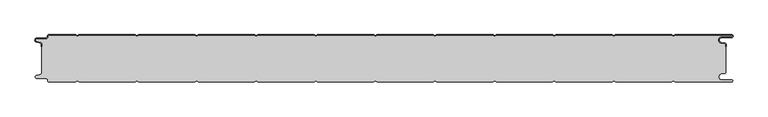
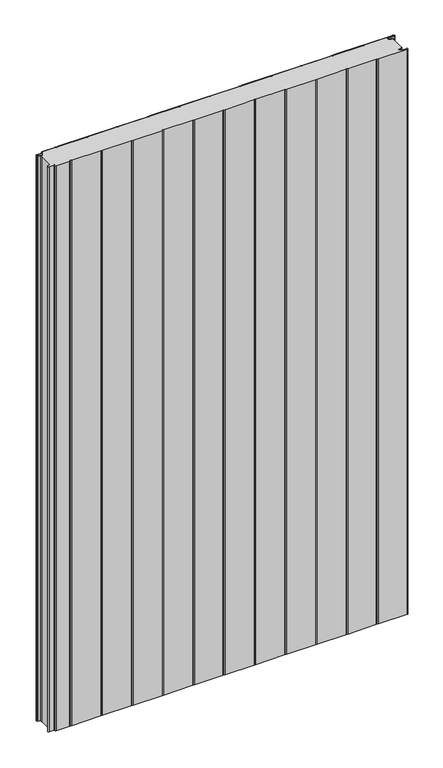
"""IFC4 building model written with IfcOpenShell, lengths in millimetres: plate geometry, PM1_Curtain-Panel_Perfil-Frigorífico : ACH_PM1_Panel-Acústico-Sectorización_80M."""

from ifc_helpers import new_model, si_unit, point, frame, frame_2d, origin, origin_with_axes, place, context, project, spatial, polyline, circle_curve, trimmed, segment, composite_curve, outline, extrude, source, transform, mapped, element, save
from ifc_brep_helpers import plane_surface, cylinder_surface, revolved_surface, advanced_brep


def plate_82cb0394(model_context):
    return source(origin(), model_context, "Body", "SolidModel", [
        advanced_brep(
        [(-575.0, -15.878557, 1945.7507136), (-575.0, -20.0, 1945.7507136), (-574.2, -20.0, 1945.7507136), (-574.2, -15.878557, 1945.7507136), (-576.370137, -13.1503208, 1945.7507136), (-582.529863, -11.728236, 1945.7507136), (-581.9, -6.2, 1945.7507136), (-566.4, -6.2, 1945.7507136), (-563.6, -3.4, 1945.7507136), (-563.6, -2.0, 1945.7507136), (-562.4, -0.8, 1945.7507136), (-517.3143588, -0.8, 1945.7507136), (-514.4, -2.482606, 1945.7507136), (-511.4856412, -0.8, 1945.7507136), (-417.3143588, -0.8, 1945.7507136), (-414.4, -2.482606, 1945.7507136), (-411.4856412, -0.8, 1945.7507136), (-317.3143588, -0.8, 1945.7507136), (-314.4, -2.482606, 1945.7507136), (-311.4856412, -0.8, 1945.7507136), (-217.3143588, -0.8, 1945.7507136), (-214.4, -2.482606, 1945.7507136), (-211.4856412, -0.8, 1945.7507136), (-117.3143588, -0.8, 1945.7507136), (-114.4, -2.482606, 1945.7507136), (-111.4856412, -0.8, 1945.7507136), (-17.3143588, -0.8, 1945.7507136), (-14.4, -2.482606, 1945.7507136), (-11.4856412, -0.8, 1945.7507136), (82.6856412, -0.8, 1945.7507136), (85.6, -2.482606, 1945.7507136), (88.5143588, -0.8, 1945.7507136), (182.6856412, -0.8, 1945.7507136), (185.6, -2.482606, 1945.7507136), (188.5143588, -0.8, 1945.7507136), (282.6856412, -0.8, 1945.7507136), (285.6, -2.482606, 1945.7507136), (288.5143588, -0.8, 1945.7507136), (382.6856412, -0.8, 1945.7507136), (385.6, -2.482606, 1945.7507136), (388.5143588, -0.8, 1945.7507136), (482.6856412, -0.8, 1945.7507136), (485.6, -2.482606, 1945.7507136), (488.5143588, -0.8, 1945.7507136), (583.1, -0.8, 1945.7507136), (583.1, -4.2, 1945.7507136), (566.1, -4.2, 1945.7507136), (565.2664884, -13.7270771, 1945.7507136), (571.7125669, -14.8636953, 1945.7507136), (573.2, -16.6363492, 1945.7507136), (573.2, -20.0, 1945.7507136), (574.0, -20.0, 1945.7507136), (574.0, -16.6363492, 1945.7507136), (571.8514855, -14.0758491, 1945.7507136), (565.405407, -12.939231, 1945.7507136), (566.1, -5.0, 1945.7507136), (583.1, -5.0, 1945.7507136), (585.6, -2.5, 1945.7507136), (583.1, 0.0, 1945.7507136), (488.2999995, 0.0, 1945.7507136), (485.6, -1.5588455, 1945.7507136), (482.9000005, 0.0, 1945.7507136), (388.2999995, 0.0, 1945.7507136), (385.6, -1.5588455, 1945.7507136), (382.9000005, 0.0, 1945.7507136), (288.2999995, 0.0, 1945.7507136), (285.6, -1.5588455, 1945.7507136), (282.9000005, 0.0, 1945.7507136), (188.2999995, 0.0, 1945.7507136), (185.6, -1.5588455, 1945.7507136), (182.9000005, 0.0, 1945.7507136), (88.2999995, 0.0, 1945.7507136), (85.6, -1.5588455, 1945.7507136), (82.9000005, 0.0, 1945.7507136), (-11.7000005, 0.0, 1945.7507136), (-14.4, -1.5588455, 1945.7507136), (-17.0999995, 0.0, 1945.7507136), (-111.7000005, 0.0, 1945.7507136), (-114.4, -1.5588455, 1945.7507136), (-117.0999995, 0.0, 1945.7507136), (-211.7000005, 0.0, 1945.7507136), (-214.4, -1.5588455, 1945.7507136), (-217.0999995, 0.0, 1945.7507136), (-311.7000005, 0.0, 1945.7507136), (-314.4, -1.5588455, 1945.7507136), (-317.0999995, 0.0, 1945.7507136), (-411.7000005, 0.0, 1945.7507136), (-414.4, -1.5588455, 1945.7507136), (-417.0999995, 0.0, 1945.7507136), (-511.7000005, 0.0, 1945.7507136), (-514.4, -1.5588455, 1945.7507136), (-517.0999995, 0.0, 1945.7507136), (-562.4, 0.0, 1945.7507136), (-564.4, -2.0, 1945.7507136), (-564.4, -3.4, 1945.7507136), (-566.4, -5.4, 1945.7507136), (-581.9, -5.4, 1945.7507136), (-582.7098239, -12.5077322, 1945.7507136), (-576.5500979, -13.929817, 1945.7507136), (-575.0, -15.878557, 0.0), (-576.5500978, -13.9298169, 0.0), (-582.7098239, -12.507732, 0.0), (-581.9, -5.4, 0.0), (-566.4, -5.4, 0.0), (-564.4, -3.4, 0.0), (-564.4, -2.0, 0.0), (-562.4, 0.0, 0.0), (-517.0999995, 0.0, 0.0), (-514.4, -1.5588455, 0.0), (-511.7000005, 0.0, 0.0), (-417.0999995, 0.0, 0.0), (-414.4, -1.5588455, 0.0), (-411.7000005, 0.0, 0.0), (-317.0999995, 0.0, 0.0), (-314.4, -1.5588455, 0.0), (-311.7000005, 0.0, 0.0), (-217.0999995, 0.0, 0.0), (-214.4, -1.5588455, 0.0), (-211.7000005, 0.0, 0.0), (-117.0999995, 0.0, 0.0), (-114.4, -1.5588455, 0.0), (-111.7000005, 0.0, 0.0), (-17.0999995, 0.0, 0.0), (-14.4, -1.5588455, 0.0), (-11.7000005, 0.0, 0.0), (82.9000005, 0.0, 0.0), (85.6, -1.5588455, 0.0), (88.2999995, 0.0, 0.0), (182.9000005, 0.0, 0.0), (185.6, -1.5588455, 0.0), (188.2999995, 0.0, 0.0), (282.9000005, 0.0, 0.0), (285.6, -1.5588455, 0.0), (288.2999995, 0.0, 0.0), (382.9000005, 0.0, 0.0), (385.6, -1.5588455, 0.0), (388.2999995, 0.0, 0.0), (482.9000005, 0.0, 0.0), (485.6, -1.5588455, 0.0), (488.2999995, 0.0, 0.0), (583.1, 0.0, 0.0), (585.6, -2.5, 0.0), (583.1, -5.0, 0.0), (566.1, -5.0, 0.0), (565.405407, -12.939231, 0.0), (571.8514855, -14.0758491, 0.0), (574.0, -16.6363492, 0.0), (574.0, -20.0, 0.0), (573.2, -20.0, 0.0), (573.2, -16.6363492, 0.0), (571.7125669, -14.8636953, 0.0), (565.2664884, -13.7270772, 0.0), (566.1, -4.2, 0.0), (583.1, -4.2, 0.0), (583.1, -0.8, 0.0), (488.5143588, -0.8, 0.0), (485.6, -2.482606, 0.0), (482.6856412, -0.8, 0.0), (388.5143588, -0.8, 0.0), (385.6, -2.482606, 0.0), (382.6856412, -0.8, 0.0), (288.5143588, -0.8, 0.0), (285.6, -2.482606, 0.0), (282.6856412, -0.8, 0.0), (188.5143588, -0.8, 0.0), (185.6, -2.482606, 0.0), (182.6856412, -0.8, 0.0), (88.5143588, -0.8, 0.0), (85.6, -2.482606, 0.0), (82.6856412, -0.8, 0.0), (-11.4856412, -0.8, 0.0), (-14.4, -2.482606, 0.0), (-17.3143588, -0.8, 0.0), (-111.4856412, -0.8, 0.0), (-114.4, -2.482606, 0.0), (-117.3143588, -0.8, 0.0), (-211.4856412, -0.8, 0.0), (-214.4, -2.482606, 0.0), (-217.3143588, -0.8, 0.0), (-311.4856412, -0.8, 0.0), (-314.4, -2.482606, 0.0), (-317.3143588, -0.8, 0.0), (-411.4856412, -0.8, 0.0), (-414.4, -2.482606, 0.0), (-417.3143588, -0.8, 0.0), (-511.4856412, -0.8, 0.0), (-514.4, -2.482606, 0.0), (-517.3143588, -0.8, 0.0), (-562.4, -0.8, 0.0), (-563.6, -2.0, 0.0), (-563.6, -3.4, 0.0), (-566.4, -6.2, 0.0), (-581.9, -6.2, 0.0), (-582.529863, -11.7282362, 0.0), (-576.370137, -13.150321, 0.0), (-574.2, -15.878557, 0.0), (-574.2, -20.0, 0.0), (-575.0, -20.0, 0.0)],
        [
            (0, 1),
            (1, 2),
            (2, 3),
            (3, 4, circle_curve(frame((-577.0, -15.878557, 1945.7507136), z_axis=(0.0, 0.0, 1.0), x_axis=(1.0, 0.0, 0.0)), 2.8)),
            (4, 5),
            (5, 6, circle_curve(frame((-581.9, -9.0, 1945.7507136), z_axis=(0.0, 0.0, -1.0), x_axis=(1.0, 0.0, 0.0)), 2.8)),
            (6, 7),
            (7, 8, circle_curve(frame((-566.4, -3.4, 1945.7507136), z_axis=(0.0, 0.0, 1.0), x_axis=(1.0, 0.0, 0.0)), 2.8)),
            (8, 9),
            (9, 10, circle_curve(frame((-562.4, -2.0, 1945.7507136), z_axis=(0.0, 0.0, -1.0), x_axis=(1.0, 0.0, 0.0)), 1.2)),
            (10, 11),
            (11, 12),
            (12, 13),
            (13, 14),
            (14, 15),
            (15, 16),
            (16, 17),
            (17, 18),
            (18, 19),
            (19, 20),
            (20, 21),
            (21, 22),
            (22, 23),
            (23, 24),
            (24, 25),
            (25, 26),
            (26, 27),
            (27, 28),
            (28, 29),
            (29, 30),
            (30, 31),
            (31, 32),
            (32, 33),
            (33, 34),
            (34, 35),
            (35, 36),
            (36, 37),
            (37, 38),
            (38, 39),
            (39, 40),
            (40, 41),
            (41, 42),
            (42, 43),
            (43, 44),
            (44, 45, circle_curve(frame((583.1, -2.5, 1945.7507136), z_axis=(0.0, 0.0, -1.0), x_axis=(1.0, 0.0, 0.0)), 1.7)),
            (45, 46),
            (46, 47, circle_curve(frame((566.1, -9.0, 1945.7507136), z_axis=(0.0, 0.0, 1.0), x_axis=(1.0, 0.0, 0.0)), 4.8)),
            (47, 48),
            (48, 49, circle_curve(frame((571.4, -16.6363492, 1945.7507136), z_axis=(0.0, 0.0, -1.0), x_axis=(1.0, 0.0, 0.0)), 1.8)),
            (49, 50),
            (50, 51),
            (51, 52),
            (52, 53, circle_curve(frame((571.4, -16.6363492, 1945.7507136), z_axis=(0.0, 0.0, 1.0), x_axis=(1.0, 0.0, 0.0)), 2.6)),
            (53, 54),
            (54, 55, circle_curve(frame((566.1, -9.0, 1945.7507136), z_axis=(0.0, 0.0, -1.0), x_axis=(1.0, 0.0, 0.0)), 4.0)),
            (55, 56),
            (56, 57, circle_curve(frame((583.1, -2.5, 1945.7507136), z_axis=(0.0, 0.0, 1.0), x_axis=(1.0, 0.0, 0.0)), 2.5)),
            (57, 58, circle_curve(frame((583.1, -2.5, 1945.7507136), z_axis=(0.0, 0.0, 1.0), x_axis=(1.0, 0.0, 0.0)), 2.5)),
            (58, 59),
            (59, 60),
            (60, 61),
            (61, 62),
            (62, 63),
            (63, 64),
            (64, 65),
            (65, 66),
            (66, 67),
            (67, 68),
            (68, 69),
            (69, 70),
            (70, 71),
            (71, 72),
            (72, 73),
            (73, 74),
            (74, 75),
            (75, 76),
            (76, 77),
            (77, 78),
            (78, 79),
            (79, 80),
            (80, 81),
            (81, 82),
            (82, 83),
            (83, 84),
            (84, 85),
            (85, 86),
            (86, 87),
            (87, 88),
            (88, 89),
            (89, 90),
            (90, 91),
            (91, 92),
            (92, 93, circle_curve(frame((-562.4, -2.0, 1945.7507136), z_axis=(0.0, 0.0, 1.0), x_axis=(1.0, 0.0, 0.0)), 2.0)),
            (93, 94),
            (94, 95, circle_curve(frame((-566.4, -3.4, 1945.7507136), z_axis=(0.0, 0.0, -1.0), x_axis=(1.0, 0.0, 0.0)), 2.0)),
            (95, 96),
            (96, 97, circle_curve(frame((-581.9, -9.0, 1945.7507136), z_axis=(0.0, 0.0, 1.0), x_axis=(1.0, 0.0, 0.0)), 3.6)),
            (97, 98),
            (98, 0, circle_curve(frame((-577.0, -15.878557, 1945.7507136), z_axis=(0.0, 0.0, -1.0), x_axis=(1.0, 0.0, 0.0)), 2.0)),
            (99, 100, circle_curve(frame((-577.0, -15.878557, 0.0), z_axis=(0.0, 0.0, 1.0), x_axis=(1.0, 0.0, 0.0)), 2.0)),
            (100, 101),
            (101, 102, circle_curve(frame((-581.9, -9.0, 0.0), z_axis=(0.0, 0.0, -1.0), x_axis=(1.0, 0.0, 0.0)), 3.6)),
            (102, 103),
            (103, 104, circle_curve(frame((-566.4, -3.4, 0.0), z_axis=(0.0, 0.0, 1.0), x_axis=(1.0, 0.0, 0.0)), 2.0)),
            (104, 105),
            (105, 106, circle_curve(frame((-562.4, -2.0, 0.0), z_axis=(0.0, 0.0, -1.0), x_axis=(1.0, 0.0, 0.0)), 2.0)),
            (106, 107),
            (107, 108),
            (108, 109),
            (109, 110),
            (110, 111),
            (111, 112),
            (112, 113),
            (113, 114),
            (114, 115),
            (115, 116),
            (116, 117),
            (117, 118),
            (118, 119),
            (119, 120),
            (120, 121),
            (121, 122),
            (122, 123),
            (123, 124),
            (124, 125),
            (125, 126),
            (126, 127),
            (127, 128),
            (128, 129),
            (129, 130),
            (130, 131),
            (131, 132),
            (132, 133),
            (133, 134),
            (134, 135),
            (135, 136),
            (136, 137),
            (137, 138),
            (138, 139),
            (139, 140),
            (140, 141, circle_curve(frame((583.1, -2.5, 0.0), z_axis=(0.0, 0.0, -1.0), x_axis=(1.0, 0.0, 0.0)), 2.5)),
            (141, 142, circle_curve(frame((583.1, -2.5, 0.0), z_axis=(0.0, 0.0, -1.0), x_axis=(1.0, 0.0, 0.0)), 2.5)),
            (142, 143),
            (143, 144, circle_curve(frame((566.1, -9.0, 0.0), z_axis=(0.0, 0.0, 1.0), x_axis=(1.0, 0.0, 0.0)), 4.0)),
            (144, 145),
            (145, 146, circle_curve(frame((571.4, -16.6363492, 0.0), z_axis=(0.0, 0.0, -1.0), x_axis=(1.0, 0.0, 0.0)), 2.6)),
            (146, 147),
            (147, 148),
            (148, 149),
            (149, 150, circle_curve(frame((571.4, -16.6363492, 0.0), z_axis=(0.0, 0.0, 1.0), x_axis=(1.0, 0.0, 0.0)), 1.8)),
            (150, 151),
            (151, 152, circle_curve(frame((566.1, -9.0, 0.0), z_axis=(0.0, 0.0, -1.0), x_axis=(1.0, 0.0, 0.0)), 4.8)),
            (152, 153),
            (153, 154, circle_curve(frame((583.1, -2.5, 0.0), z_axis=(0.0, 0.0, 1.0), x_axis=(1.0, 0.0, 0.0)), 1.7)),
            (154, 155),
            (155, 156),
            (156, 157),
            (157, 158),
            (158, 159),
            (159, 160),
            (160, 161),
            (161, 162),
            (162, 163),
            (163, 164),
            (164, 165),
            (165, 166),
            (166, 167),
            (167, 168),
            (168, 169),
            (169, 170),
            (170, 171),
            (171, 172),
            (172, 173),
            (173, 174),
            (174, 175),
            (175, 176),
            (176, 177),
            (177, 178),
            (178, 179),
            (179, 180),
            (180, 181),
            (181, 182),
            (182, 183),
            (183, 184),
            (184, 185),
            (185, 186),
            (186, 187),
            (187, 188),
            (188, 189, circle_curve(frame((-562.4, -2.0, 0.0), z_axis=(0.0, 0.0, 1.0), x_axis=(1.0, 0.0, 0.0)), 1.2)),
            (189, 190),
            (190, 191, circle_curve(frame((-566.4, -3.4, 0.0), z_axis=(0.0, 0.0, -1.0), x_axis=(1.0, 0.0, 0.0)), 2.8)),
            (191, 192),
            (192, 193, circle_curve(frame((-581.9, -9.0, 0.0), z_axis=(0.0, 0.0, 1.0), x_axis=(1.0, 0.0, 0.0)), 2.8)),
            (193, 194),
            (194, 195, circle_curve(frame((-577.0, -15.878557, 0.0), z_axis=(0.0, 0.0, -1.0), x_axis=(1.0, 0.0, 0.0)), 2.8)),
            (195, 196),
            (196, 197),
            (197, 99),
            (0, 99),
            (197, 1),
            (196, 2),
            (195, 3),
            (194, 4),
            (193, 5),
            (192, 6),
            (191, 7),
            (190, 8),
            (189, 9),
            (188, 10),
            (187, 11),
            (186, 12),
            (185, 13),
            (184, 14),
            (183, 15),
            (182, 16),
            (181, 17),
            (180, 18),
            (179, 19),
            (178, 20),
            (177, 21),
            (176, 22),
            (175, 23),
            (174, 24),
            (173, 25),
            (172, 26),
            (171, 27),
            (170, 28),
            (169, 29),
            (168, 30),
            (167, 31),
            (166, 32),
            (165, 33),
            (164, 34),
            (163, 35),
            (162, 36),
            (161, 37),
            (160, 38),
            (159, 39),
            (158, 40),
            (157, 41),
            (156, 42),
            (155, 43),
            (154, 44),
            (153, 45),
            (152, 46),
            (151, 47),
            (150, 48),
            (149, 49),
            (148, 50),
            (147, 51),
            (146, 52),
            (145, 53),
            (144, 54),
            (143, 55),
            (142, 56),
            (140, 58),
            (139, 59),
            (138, 60),
            (137, 61),
            (136, 62),
            (135, 63),
            (134, 64),
            (133, 65),
            (132, 66),
            (131, 67),
            (130, 68),
            (129, 69),
            (128, 70),
            (127, 71),
            (126, 72),
            (125, 73),
            (124, 74),
            (123, 75),
            (122, 76),
            (121, 77),
            (120, 78),
            (119, 79),
            (118, 80),
            (117, 81),
            (116, 82),
            (115, 83),
            (114, 84),
            (113, 85),
            (112, 86),
            (111, 87),
            (110, 88),
            (109, 89),
            (108, 90),
            (107, 91),
            (106, 92),
            (105, 93),
            (104, 94),
            (103, 95),
            (102, 96),
            (101, 97),
            (100, 98),
        ],
        [
            plane_surface(frame((-575.0, 0.0, 1945.7507136), z_axis=(0.0, 0.0, 1.0), x_axis=(0.0, 1.0, 0.0))),
            plane_surface(frame((-575.0, 0.0, 0.0), z_axis=(0.0, 0.0, -1.0), x_axis=(0.0, 1.0, 0.0))),
            plane_surface(frame((-575.0, -15.878557, 1945.7507136), z_axis=(-1.0, 0.0, 0.0), x_axis=(0.0, 0.0, -1.0))),
            plane_surface(frame((-575.0, -20.0, 1945.7507136), z_axis=(0.0, -1.0, 0.0), x_axis=(0.0, 0.0, -1.0))),
            plane_surface(frame((-574.2, -20.0, 1945.7507136), z_axis=(1.0, 0.0, 0.0), x_axis=(0.0, 0.0, -1.0))),
            cylinder_surface(frame((-577.0, -15.878557, 1945.7507136), z_axis=(0.0, 0.0, 1.0), x_axis=(1.0, 0.0, 0.0)), 2.8),
            plane_surface(frame((-576.370137, -13.150321, 1945.7507136), z_axis=(0.22495108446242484, 0.9743700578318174, 0.0), x_axis=(0.0, 0.0, -1.0))),
            revolved_surface(polyline([(-579.1, -9.0, 0.0), (-579.1, -9.0, 1945.7507136)]), (-581.9, -9.0, 1945.7507136), (0.0, 0.0, -1.0)),
            plane_surface(frame((-581.9, -6.2, 1945.7507136), z_axis=(0.0, -1.0, 0.0), x_axis=(0.0, 0.0, -1.0))),
            cylinder_surface(frame((-566.4, -3.4, 1945.7507136), z_axis=(0.0, 0.0, 1.0), x_axis=(1.0, 0.0, 0.0)), 2.8),
            plane_surface(frame((-563.6, -3.4, 1945.7507136), z_axis=(1.0, 0.0, 0.0), x_axis=(0.0, 0.0, -1.0))),
            revolved_surface(polyline([(-561.1999999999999, -2.0, 0.0), (-561.1999999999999, -2.0, 1945.7507136)]), (-562.4, -2.0, 1945.7507136), (0.0, 0.0, -1.0)),
            plane_surface(frame((-562.4, -0.8, 1945.7507136), z_axis=(0.0, -1.0, 0.0), x_axis=(0.0, 0.0, -1.0))),
            plane_surface(frame((-517.3143588, -0.8, 1945.7507136), z_axis=(-0.5000000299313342, -0.8660253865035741, 0.0), x_axis=(0.0, 0.0, -1.0))),
            plane_surface(frame((-514.4, -2.482606, 1945.7507136), z_axis=(0.5000000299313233, -0.8660253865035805, 0.0), x_axis=(0.0, 0.0, -1.0))),
            plane_surface(frame((-511.4856412, -0.8, 1945.7507136), z_axis=(0.0, -1.0, 0.0), x_axis=(0.0, 0.0, -1.0))),
            plane_surface(frame((-417.3143588, -0.8, 1945.7507136), z_axis=(-0.5000000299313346, -0.8660253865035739, 0.0), x_axis=(0.0, 0.0, -1.0))),
            plane_surface(frame((-414.4, -2.482606, 1945.7507136), z_axis=(0.5000000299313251, -0.8660253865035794, 0.0), x_axis=(0.0, 0.0, -1.0))),
            plane_surface(frame((-411.4856412, -0.8, 1945.7507136), z_axis=(0.0, -1.0, 0.0), x_axis=(0.0, 0.0, -1.0))),
            plane_surface(frame((-317.3143588, -0.8, 1945.7507136), z_axis=(-0.5000000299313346, -0.866025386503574, 0.0), x_axis=(0.0, 0.0, -1.0))),
            plane_surface(frame((-314.4, -2.482606, 1945.7507136), z_axis=(0.5000000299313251, -0.8660253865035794, 0.0), x_axis=(0.0, 0.0, -1.0))),
            plane_surface(frame((-311.4856412, -0.8, 1945.7507136), z_axis=(0.0, -1.0, 0.0), x_axis=(0.0, 0.0, -1.0))),
            plane_surface(frame((-217.3143588, -0.8, 1945.7507136), z_axis=(-0.5000000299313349, -0.8660253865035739, 0.0), x_axis=(0.0, 0.0, -1.0))),
            plane_surface(frame((-214.4, -2.482606, 1945.7507136), z_axis=(0.5000000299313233, -0.8660253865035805, 0.0), x_axis=(0.0, 0.0, -1.0))),
            plane_surface(frame((-211.4856412, -0.8, 1945.7507136), z_axis=(0.0, -1.0, 0.0), x_axis=(0.0, 0.0, -1.0))),
            plane_surface(frame((-117.3143588, -0.8, 1945.7507136), z_axis=(-0.5000000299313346, -0.866025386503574, 0.0), x_axis=(0.0, 0.0, -1.0))),
            plane_surface(frame((-114.4, -2.482606, 1945.7507136), z_axis=(0.5000000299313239, -0.8660253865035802, 0.0), x_axis=(0.0, 0.0, -1.0))),
            plane_surface(frame((-111.4856412, -0.8, 1945.7507136), z_axis=(0.0, -1.0, 0.0), x_axis=(0.0, 0.0, -1.0))),
            plane_surface(frame((-17.3143588, -0.8, 1945.7507136), z_axis=(-0.5000000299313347, -0.8660253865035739, 0.0), x_axis=(0.0, 0.0, -1.0))),
            plane_surface(frame((-14.4, -2.482606, 1945.7507136), z_axis=(0.5000000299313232, -0.8660253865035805, 0.0), x_axis=(0.0, 0.0, -1.0))),
            plane_surface(frame((-11.4856412, -0.8, 1945.7507136), z_axis=(0.0, -1.0, 0.0), x_axis=(0.0, 0.0, -1.0))),
            plane_surface(frame((82.6856412, -0.8, 1945.7507136), z_axis=(-0.5000000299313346, -0.866025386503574, 0.0), x_axis=(0.0, 0.0, -1.0))),
            plane_surface(frame((85.6, -2.482606, 1945.7507136), z_axis=(0.5000000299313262, -0.8660253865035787, 0.0), x_axis=(0.0, 0.0, -1.0))),
            plane_surface(frame((88.5143588, -0.8, 1945.7507136), z_axis=(0.0, -1.0, 0.0), x_axis=(0.0, 0.0, -1.0))),
            plane_surface(frame((182.6856412, -0.8, 1945.7507136), z_axis=(-0.5000000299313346, -0.8660253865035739, 0.0), x_axis=(0.0, 0.0, -1.0))),
            plane_surface(frame((185.6, -2.482606, 1945.7507136), z_axis=(0.5000000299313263, -0.8660253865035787, 0.0), x_axis=(0.0, 0.0, -1.0))),
            plane_surface(frame((188.5143588, -0.8, 1945.7507136), z_axis=(0.0, -1.0, 0.0), x_axis=(0.0, 0.0, -1.0))),
            plane_surface(frame((282.6856412, -0.8, 1945.7507136), z_axis=(-0.5000000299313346, -0.8660253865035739, 0.0), x_axis=(0.0, 0.0, -1.0))),
            plane_surface(frame((285.6, -2.482606, 1945.7507136), z_axis=(0.5000000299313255, -0.8660253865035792, 0.0), x_axis=(0.0, 0.0, -1.0))),
            plane_surface(frame((288.5143588, -0.8, 1945.7507136), z_axis=(0.0, -1.0, 0.0), x_axis=(0.0, 0.0, -1.0))),
            plane_surface(frame((382.6856412, -0.8, 1945.7507136), z_axis=(-0.5000000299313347, -0.8660253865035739, 0.0), x_axis=(0.0, 0.0, -1.0))),
            plane_surface(frame((385.6, -2.482606, 1945.7507136), z_axis=(0.5000000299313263, -0.8660253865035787, 0.0), x_axis=(0.0, 0.0, -1.0))),
            plane_surface(frame((388.5143588, -0.8, 1945.7507136), z_axis=(0.0, -1.0, 0.0), x_axis=(0.0, 0.0, -1.0))),
            plane_surface(frame((482.6856412, -0.8, 1945.7507136), z_axis=(-0.5000000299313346, -0.866025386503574, 0.0), x_axis=(0.0, 0.0, -1.0))),
            plane_surface(frame((485.6, -2.482606, 1945.7507136), z_axis=(0.5000000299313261, -0.8660253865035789, 0.0), x_axis=(0.0, 0.0, -1.0))),
            plane_surface(frame((535.6, -0.8, 1945.7507136), z_axis=(0.0, -1.0, 0.0), x_axis=(0.0, 0.0, -1.0))),
            revolved_surface(polyline([(584.8000000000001, -2.5, 0.0), (584.8000000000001, -2.5, 1945.7507136)]), (583.1, -2.5, 1945.7507136), (0.0, 0.0, -1.0)),
            plane_surface(frame((583.1, -4.2, 1945.7507136), z_axis=(0.0, 1.0, 0.0), x_axis=(0.0, 0.0, -1.0))),
            cylinder_surface(frame((566.1, -9.0, 1945.7507136), z_axis=(0.0, 0.0, 1.0), x_axis=(1.0, 0.0, 0.0)), 4.8),
            plane_surface(frame((565.2664884, -13.7270772, 1945.7507136), z_axis=(-0.17364825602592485, -0.9848077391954, 0.0), x_axis=(0.0, 0.0, -1.0))),
            revolved_surface(polyline([(573.1999999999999, -16.6363492, 0.0), (573.1999999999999, -16.6363492, 1945.7507136)]), (571.4, -16.6363492, 1945.7507136), (0.0, 0.0, -1.0)),
            plane_surface(frame((573.2, -16.6363492, 1945.7507136), z_axis=(-1.0, 0.0, 0.0), x_axis=(0.0, 0.0, -1.0))),
            plane_surface(frame((573.2, -20.0, 1945.7507136), z_axis=(0.0, -1.0, 0.0), x_axis=(0.0, 0.0, -1.0))),
            plane_surface(frame((574.0, -20.0, 1945.7507136), z_axis=(1.0, 0.0, 0.0), x_axis=(0.0, 0.0, -1.0))),
            cylinder_surface(frame((571.4, -16.6363492, 1945.7507136), z_axis=(0.0, 0.0, 1.0), x_axis=(1.0, 0.0, 0.0)), 2.6),
            plane_surface(frame((571.8514855, -14.0758491, 1945.7507136), z_axis=(0.1736482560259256, 0.9848077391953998, 0.0), x_axis=(0.0, 0.0, -1.0))),
            revolved_surface(polyline([(570.1, -9.0, 0.0), (570.1, -9.0, 1945.7507136)]), (566.1, -9.0, 1945.7507136), (0.0, 0.0, -1.0)),
            plane_surface(frame((566.1, -5.0, 1945.7507136), z_axis=(0.0, -1.0, 0.0), x_axis=(0.0, 0.0, -1.0))),
            cylinder_surface(frame((583.1, -2.5, 1945.7507136), z_axis=(0.0, 0.0, 1.0), x_axis=(1.0, 0.0, 0.0)), 2.5),
            plane_surface(frame((535.6, 0.0, 1945.7507136), z_axis=(0.0, 1.0, 0.0), x_axis=(0.0, 0.0, -1.0))),
            plane_surface(frame((488.2999995, 0.0, 1945.7507136), z_axis=(-0.5000000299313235, 0.8660253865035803, 0.0), x_axis=(0.0, 0.0, -1.0))),
            plane_surface(frame((485.6, -1.5588455, 1945.7507136), z_axis=(0.5000000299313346, 0.8660253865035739, 0.0), x_axis=(0.0, 0.0, -1.0))),
            plane_surface(frame((482.9000005, 0.0, 1945.7507136), z_axis=(0.0, 1.0, 0.0), x_axis=(0.0, 0.0, -1.0))),
            plane_surface(frame((388.2999995, 0.0, 1945.7507136), z_axis=(-0.5000000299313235, 0.8660253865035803, 0.0), x_axis=(0.0, 0.0, -1.0))),
            plane_surface(frame((385.6, -1.5588455, 1945.7507136), z_axis=(0.5000000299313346, 0.8660253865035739, 0.0), x_axis=(0.0, 0.0, -1.0))),
            plane_surface(frame((382.9000005, 0.0, 1945.7507136), z_axis=(0.0, 1.0, 0.0), x_axis=(0.0, 0.0, -1.0))),
            plane_surface(frame((288.2999995, 0.0, 1945.7507136), z_axis=(-0.5000000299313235, 0.8660253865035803, 0.0), x_axis=(0.0, 0.0, -1.0))),
            plane_surface(frame((285.6, -1.5588455, 1945.7507136), z_axis=(0.5000000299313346, 0.8660253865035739, 0.0), x_axis=(0.0, 0.0, -1.0))),
            plane_surface(frame((282.9000005, 0.0, 1945.7507136), z_axis=(0.0, 1.0, 0.0), x_axis=(0.0, 0.0, -1.0))),
            plane_surface(frame((188.2999995, 0.0, 1945.7507136), z_axis=(-0.5000000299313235, 0.8660253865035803, 0.0), x_axis=(0.0, 0.0, -1.0))),
            plane_surface(frame((185.6, -1.5588455, 1945.7507136), z_axis=(0.5000000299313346, 0.8660253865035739, 0.0), x_axis=(0.0, 0.0, -1.0))),
            plane_surface(frame((182.9000005, 0.0, 1945.7507136), z_axis=(0.0, 1.0, 0.0), x_axis=(0.0, 0.0, -1.0))),
            plane_surface(frame((88.2999995, 0.0, 1945.7507136), z_axis=(-0.5000000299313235, 0.8660253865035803, 0.0), x_axis=(0.0, 0.0, -1.0))),
            plane_surface(frame((85.6, -1.5588455, 1945.7507136), z_axis=(0.5000000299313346, 0.8660253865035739, 0.0), x_axis=(0.0, 0.0, -1.0))),
            plane_surface(frame((82.9000005, 0.0, 1945.7507136), z_axis=(0.0, 1.0, 0.0), x_axis=(0.0, 0.0, -1.0))),
            plane_surface(frame((-11.7000005, 0.0, 1945.7507136), z_axis=(-0.5000000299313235, 0.8660253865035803, 0.0), x_axis=(0.0, 0.0, -1.0))),
            plane_surface(frame((-14.4, -1.5588455, 1945.7507136), z_axis=(0.5000000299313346, 0.8660253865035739, 0.0), x_axis=(0.0, 0.0, -1.0))),
            plane_surface(frame((-17.0999995, 0.0, 1945.7507136), z_axis=(0.0, 1.0, 0.0), x_axis=(0.0, 0.0, -1.0))),
            plane_surface(frame((-111.7000005, 0.0, 1945.7507136), z_axis=(-0.5000000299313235, 0.8660253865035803, 0.0), x_axis=(0.0, 0.0, -1.0))),
            plane_surface(frame((-114.4, -1.5588455, 1945.7507136), z_axis=(0.5000000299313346, 0.8660253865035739, 0.0), x_axis=(0.0, 0.0, -1.0))),
            plane_surface(frame((-117.0999995, 0.0, 1945.7507136), z_axis=(0.0, 1.0, 0.0), x_axis=(0.0, 0.0, -1.0))),
            plane_surface(frame((-211.7000005, 0.0, 1945.7507136), z_axis=(-0.5000000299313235, 0.8660253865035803, 0.0), x_axis=(0.0, 0.0, -1.0))),
            plane_surface(frame((-214.4, -1.5588455, 1945.7507136), z_axis=(0.5000000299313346, 0.8660253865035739, 0.0), x_axis=(0.0, 0.0, -1.0))),
            plane_surface(frame((-217.0999995, 0.0, 1945.7507136), z_axis=(0.0, 1.0, 0.0), x_axis=(0.0, 0.0, -1.0))),
            plane_surface(frame((-311.7000005, 0.0, 1945.7507136), z_axis=(-0.5000000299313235, 0.8660253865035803, 0.0), x_axis=(0.0, 0.0, -1.0))),
            plane_surface(frame((-314.4, -1.5588455, 1945.7507136), z_axis=(0.5000000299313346, 0.8660253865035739, 0.0), x_axis=(0.0, 0.0, -1.0))),
            plane_surface(frame((-317.0999995, 0.0, 1945.7507136), z_axis=(0.0, 1.0, 0.0), x_axis=(0.0, 0.0, -1.0))),
            plane_surface(frame((-411.7000005, 0.0, 1945.7507136), z_axis=(-0.5000000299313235, 0.8660253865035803, 0.0), x_axis=(0.0, 0.0, -1.0))),
            plane_surface(frame((-414.4, -1.5588455, 1945.7507136), z_axis=(0.5000000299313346, 0.8660253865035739, 0.0), x_axis=(0.0, 0.0, -1.0))),
            plane_surface(frame((-417.0999995, 0.0, 1945.7507136), z_axis=(0.0, 1.0, 0.0), x_axis=(0.0, 0.0, -1.0))),
            plane_surface(frame((-511.7000005, 0.0, 1945.7507136), z_axis=(-0.5000000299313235, 0.8660253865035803, 0.0), x_axis=(0.0, 0.0, -1.0))),
            plane_surface(frame((-514.4, -1.5588455, 1945.7507136), z_axis=(0.5000000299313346, 0.8660253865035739, 0.0), x_axis=(0.0, 0.0, -1.0))),
            plane_surface(frame((-517.0999995, 0.0, 1945.7507136), z_axis=(0.0, 1.0, 0.0), x_axis=(0.0, 0.0, -1.0))),
            cylinder_surface(frame((-562.4, -2.0, 1945.7507136), z_axis=(0.0, 0.0, 1.0), x_axis=(1.0, 0.0, 0.0)), 2.0),
            plane_surface(frame((-564.4, -2.0, 1945.7507136), z_axis=(-1.0, 0.0, 0.0), x_axis=(0.0, 0.0, -1.0))),
            revolved_surface(polyline([(-564.4, -3.4, 0.0), (-564.4, -3.4, 1945.7507136)]), (-566.4, -3.4, 1945.7507136), (0.0, 0.0, -1.0)),
            plane_surface(frame((-566.4, -5.4, 1945.7507136), z_axis=(0.0, 1.0, 0.0), x_axis=(0.0, 0.0, -1.0))),
            cylinder_surface(frame((-581.9, -9.0, 1945.7507136), z_axis=(0.0, 0.0, 1.0), x_axis=(1.0, 0.0, 0.0)), 3.6),
            plane_surface(frame((-582.7098239, -12.507732, 1945.7507136), z_axis=(-0.22495108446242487, -0.9743700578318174, 0.0), x_axis=(0.0, 0.0, -1.0))),
            revolved_surface(polyline([(-575.0, -15.878557, 0.0), (-575.0, -15.878557, 1945.7507136)]), (-577.0, -15.878557, 1945.7507136), (0.0, 0.0, -1.0)),
        ],
        [
            (0, [[1, 2, 3, 4, 5, 6, 7, 8, 9, 10, 11, 12, 13, 14, 15, 16, 17, 18, 19, 20, 21, 22, 23, 24, 25, 26, 27, 28, 29, 30, 31, 32, 33, 34, 35, 36, 37, 38, 39, 40, 41, 42, 43, 44, 45, 46, 47, 48, 49, 50, 51, 52, 53, 54, 55, 56, 57, 58, 59, 60, 61, 62, 63, 64, 65, 66, 67, 68, 69, 70, 71, 72, 73, 74, 75, 76, 77, 78, 79, 80, 81, 82, 83, 84, 85, 86, 87, 88, 89, 90, 91, 92, 93, 94, 95, 96, 97, 98, 99]]),
            (1, [[100, 101, 102, 103, 104, 105, 106, 107, 108, 109, 110, 111, 112, 113, 114, 115, 116, 117, 118, 119, 120, 121, 122, 123, 124, 125, 126, 127, 128, 129, 130, 131, 132, 133, 134, 135, 136, 137, 138, 139, 140, 141, 142, 143, 144, 145, 146, 147, 148, 149, 150, 151, 152, 153, 154, 155, 156, 157, 158, 159, 160, 161, 162, 163, 164, 165, 166, 167, 168, 169, 170, 171, 172, 173, 174, 175, 176, 177, 178, 179, 180, 181, 182, 183, 184, 185, 186, 187, 188, 189, 190, 191, 192, 193, 194, 195, 196, 197, 198]]),
            (2, [[-1, 199, -198, 200]]),
            (3, [[-2, -200, -197, 201]]),
            (4, [[-3, -201, -196, 202]]),
            (5, [[-4, -202, -195, 203]]),
            (6, [[-5, -203, -194, 204]]),
            (7, [[-6, -204, -193, 205]]),
            (8, [[-7, -205, -192, 206]]),
            (9, [[-8, -206, -191, 207]]),
            (10, [[-9, -207, -190, 208]]),
            (11, [[-10, -208, -189, 209]]),
            (12, [[-11, -209, -188, 210]]),
            (13, [[-12, -210, -187, 211]]),
            (14, [[-13, -211, -186, 212]]),
            (15, [[-14, -212, -185, 213]]),
            (16, [[-15, -213, -184, 214]]),
            (17, [[-16, -214, -183, 215]]),
            (18, [[-17, -215, -182, 216]]),
            (19, [[-18, -216, -181, 217]]),
            (20, [[-19, -217, -180, 218]]),
            (21, [[-20, -218, -179, 219]]),
            (22, [[-21, -219, -178, 220]]),
            (23, [[-22, -220, -177, 221]]),
            (24, [[-23, -221, -176, 222]]),
            (25, [[-24, -222, -175, 223]]),
            (26, [[-25, -223, -174, 224]]),
            (27, [[-26, -224, -173, 225]]),
            (28, [[-27, -225, -172, 226]]),
            (29, [[-28, -226, -171, 227]]),
            (30, [[-29, -227, -170, 228]]),
            (31, [[-30, -228, -169, 229]]),
            (32, [[-31, -229, -168, 230]]),
            (33, [[-32, -230, -167, 231]]),
            (34, [[-33, -231, -166, 232]]),
            (35, [[-34, -232, -165, 233]]),
            (36, [[-35, -233, -164, 234]]),
            (37, [[-36, -234, -163, 235]]),
            (38, [[-37, -235, -162, 236]]),
            (39, [[-38, -236, -161, 237]]),
            (40, [[-39, -237, -160, 238]]),
            (41, [[-40, -238, -159, 239]]),
            (42, [[-41, -239, -158, 240]]),
            (43, [[-42, -240, -157, 241]]),
            (44, [[-43, -241, -156, 242]]),
            (45, [[-44, -242, -155, 243]]),
            (46, [[-45, -243, -154, 244]]),
            (47, [[-46, -244, -153, 245]]),
            (48, [[-47, -245, -152, 246]]),
            (49, [[-48, -246, -151, 247]]),
            (50, [[-49, -247, -150, 248]]),
            (51, [[-50, -248, -149, 249]]),
            (52, [[-51, -249, -148, 250]]),
            (53, [[-52, -250, -147, 251]]),
            (54, [[-53, -251, -146, 252]]),
            (55, [[-54, -252, -145, 253]]),
            (56, [[-55, -253, -144, 254]]),
            (57, [[-56, -254, -143, 255]]),
            (58, [[-255, -142, -141, 256, -58, -57]]),
            (59, [[-59, -256, -140, 257]]),
            (60, [[-60, -257, -139, 258]]),
            (61, [[-61, -258, -138, 259]]),
            (62, [[-62, -259, -137, 260]]),
            (63, [[-63, -260, -136, 261]]),
            (64, [[-64, -261, -135, 262]]),
            (65, [[-65, -262, -134, 263]]),
            (66, [[-66, -263, -133, 264]]),
            (67, [[-67, -264, -132, 265]]),
            (68, [[-68, -265, -131, 266]]),
            (69, [[-69, -266, -130, 267]]),
            (70, [[-70, -267, -129, 268]]),
            (71, [[-71, -268, -128, 269]]),
            (72, [[-72, -269, -127, 270]]),
            (73, [[-73, -270, -126, 271]]),
            (74, [[-74, -271, -125, 272]]),
            (75, [[-75, -272, -124, 273]]),
            (76, [[-76, -273, -123, 274]]),
            (77, [[-77, -274, -122, 275]]),
            (78, [[-78, -275, -121, 276]]),
            (79, [[-79, -276, -120, 277]]),
            (80, [[-80, -277, -119, 278]]),
            (81, [[-81, -278, -118, 279]]),
            (82, [[-82, -279, -117, 280]]),
            (83, [[-83, -280, -116, 281]]),
            (84, [[-84, -281, -115, 282]]),
            (85, [[-85, -282, -114, 283]]),
            (86, [[-86, -283, -113, 284]]),
            (87, [[-87, -284, -112, 285]]),
            (88, [[-88, -285, -111, 286]]),
            (89, [[-89, -286, -110, 287]]),
            (90, [[-90, -287, -109, 288]]),
            (91, [[-91, -288, -108, 289]]),
            (92, [[-92, -289, -107, 290]]),
            (93, [[-93, -290, -106, 291]]),
            (94, [[-94, -291, -105, 292]]),
            (95, [[-95, -292, -104, 293]]),
            (96, [[-96, -293, -103, 294]]),
            (97, [[-97, -294, -102, 295]]),
            (98, [[-98, -295, -101, 296]]),
            (99, [[-99, -296, -100, -199]]),
        ],
    ),
        extrude(outline(composite_curve([segment(polyline([(-574.2, -64.1214426), (-574.2, -15.8785573)]), True, "CONTINUOUS"), segment(trimmed(circle_curve(frame_2d((-577.0, -15.8785573)), 2.8), [point((-574.2, -15.8785573))], [point((-576.370137, -13.1503212))], True, "CARTESIAN"), True, "CONTINUOUS"), segment(polyline([(-576.370137, -13.1503212), (-582.5298631, -11.7282362)]), True, "CONTINUOUS"), segment(trimmed(circle_curve(frame_2d((-581.9, -9.0)), 2.8), [point((-582.5298631, -11.7282362))], [point((-581.9, -6.2))], False, "CARTESIAN"), True, "CONTINUOUS"), segment(polyline([(-581.9, -6.2), (-566.4000001, -6.2)]), True, "CONTINUOUS"), segment(trimmed(circle_curve(frame_2d((-566.4000001, -3.4)), 2.8), [point((-566.4000001, -6.2))], [point((-563.6000001, -3.4))], True, "CARTESIAN"), True, "CONTINUOUS"), segment(polyline([(-563.6000001, -3.4), (-563.6000001, -2.0)]), True, "CONTINUOUS"), segment(trimmed(circle_curve(frame_2d((-562.4000001, -2.0)), 1.2), [point((-563.6000001, -2.0))], [point((-562.4000001, -0.8))], False, "CARTESIAN"), True, "CONTINUOUS"), segment(polyline([(-562.4000001, -0.8), (-517.3143589, -0.8), (-514.4000001, -2.482606), (-511.4856412, -0.8), (-417.3143589, -0.8), (-414.4000001, -2.482606), (-411.4856412, -0.8), (-317.3143589, -0.8), (-314.4000001, -2.482606), (-311.4856412, -0.8), (-217.3143589, -0.8), (-214.4000001, -2.482606), (-211.4856412, -0.8), (-117.3143589, -0.8), (-114.4000001, -2.482606), (-111.4856412, -0.8), (-17.3143589, -0.8), (-14.4000001, -2.482606), (-11.4856412, -0.8), (82.6856411, -0.8), (85.5999999, -2.482606), (88.5143588, -0.8), (182.6856411, -0.8), (185.5999999, -2.482606), (188.5143588, -0.8), (282.6856411, -0.8), (285.5999999, -2.482606), (288.5143588, -0.8), (382.6856411, -0.8), (385.5999999, -2.482606), (388.5143588, -0.8), (482.6856411, -0.8), (485.6, -2.482606), (488.5143588, -0.8), (583.1, -0.8)]), True, "CONTINUOUS"), segment(trimmed(circle_curve(frame_2d((583.1, -2.5)), 1.7), [point((583.1, -0.8))], [point((583.1, -4.2))], False, "CARTESIAN"), True, "CONTINUOUS"), segment(polyline([(583.1, -4.2), (566.1, -4.2)]), True, "CONTINUOUS"), segment(trimmed(circle_curve(frame_2d((566.1, -9.0)), 4.8), [point((566.1, -4.2))], [point((565.2664883, -13.7270771))], True, "CARTESIAN"), True, "CONTINUOUS"), segment(polyline([(565.2664883, -13.7270771), (571.7125668, -14.8636953)]), True, "CONTINUOUS"), segment(trimmed(circle_curve(frame_2d((571.4, -16.6363492)), 1.8), [point((571.7125668, -14.8636953))], [point((573.2, -16.6363492))], False, "CARTESIAN"), True, "CONTINUOUS"), segment(polyline([(573.2, -16.6363492), (573.2, -63.3636508)]), True, "CONTINUOUS"), segment(trimmed(circle_curve(frame_2d((571.4, -63.3636508)), 1.8), [point((573.2, -63.3636508))], [point((571.7125668, -65.1363047))], False, "CARTESIAN"), True, "CONTINUOUS"), segment(polyline([(571.7125668, -65.1363047), (565.2664883, -66.2729229)]), True, "CONTINUOUS"), segment(trimmed(circle_curve(frame_2d((566.1, -71.0)), 4.8), [point((565.2664883, -66.2729229))], [point((566.1, -75.8))], True, "CARTESIAN"), True, "CONTINUOUS"), segment(polyline([(566.1, -75.8), (583.1, -75.8)]), True, "CONTINUOUS"), segment(trimmed(circle_curve(frame_2d((583.1, -77.5)), 1.7), [point((583.1, -75.8))], [point((583.1, -79.2))], False, "CARTESIAN"), True, "CONTINUOUS"), segment(polyline([(583.1, -79.2), (488.5143588, -79.2), (485.6, -77.517394), (482.6856411, -79.2), (388.5143588, -79.2), (385.5999999, -77.517394), (382.6856411, -79.2), (288.5143588, -79.2), (285.5999999, -77.517394), (282.6856411, -79.2), (188.5143588, -79.2), (185.5999999, -77.517394), (182.6856411, -79.2), (88.5143588, -79.2), (85.5999999, -77.517394), (82.6856411, -79.2), (-11.4856412, -79.2), (-14.4000001, -77.517394), (-17.3143589, -79.2), (-111.4856412, -79.2), (-114.4000001, -77.517394), (-117.3143589, -79.2), (-211.4856412, -79.2), (-214.4000001, -77.517394), (-217.3143589, -79.2), (-311.4856412, -79.2), (-314.4000001, -77.517394), (-317.3143589, -79.2), (-411.4856412, -79.2), (-414.4000001, -77.517394), (-417.3143589, -79.2), (-511.4856412, -79.2), (-514.4000001, -77.517394), (-517.3143589, -79.2), (-562.4000001, -79.2)]), True, "CONTINUOUS"), segment(trimmed(circle_curve(frame_2d((-562.4000001, -78.0)), 1.2), [point((-562.4000001, -79.2))], [point((-563.6000001, -78.0))], False, "CARTESIAN"), True, "CONTINUOUS"), segment(polyline([(-563.6000001, -78.0), (-563.6000001, -76.6)]), True, "CONTINUOUS"), segment(trimmed(circle_curve(frame_2d((-566.4000001, -76.6)), 2.8), [point((-563.6000001, -76.6))], [point((-566.4000001, -73.8))], True, "CARTESIAN"), True, "CONTINUOUS"), segment(polyline([(-566.4000001, -73.8), (-581.9, -73.8)]), True, "CONTINUOUS"), segment(trimmed(circle_curve(frame_2d((-581.9, -71.0)), 2.8), [point((-581.9, -73.8))], [point((-582.5298631, -68.2717638))], False, "CARTESIAN"), True, "CONTINUOUS"), segment(polyline([(-582.5298631, -68.2717638), (-576.370137, -66.8496788)]), True, "CONTINUOUS"), segment(trimmed(circle_curve(frame_2d((-577.0, -64.1214426)), 2.8), [point((-576.370137, -66.8496788))], [point((-574.2, -64.1214426))], True, "CARTESIAN"), True, "CONTINUOUS")], self_intersect=False)), origin_with_axes(), (0.0, 0.0, 1.0), 1945.7507136),
    ])


if __name__ == "__main__":
    model = new_model("IFC4")
    model_context = context("Model", 3, world=origin())
    ifc_project = project(units=[si_unit("LENGTHUNIT", "METRE", prefix="MILLI")], contexts=[model_context])
    site = spatial("IfcSite", under=ifc_project)
    building = spatial("IfcBuilding", under=site)
    placement = place(None, origin())
    plate_shape = plate_82cb0394(model_context)
    element("IfcPlate", 1, ObjectType="PM1_Curtain-Panel_Perfil-Frigorífico : ACH_PM1_Panel-Acústico-Sectorización_80M", at=placement, inside=building, context=model_context, shape_type="MappedRepresentation", body=[
        mapped(plate_shape, transform((0.0, 0.0, 0.0), x_axis=(1.0, 0.0, 0.0), y_axis=(0.0, 1.0, 0.0), z_axis=(0.0, 0.0, 1.0))),
    ])
    save(model, "model.ifc")
